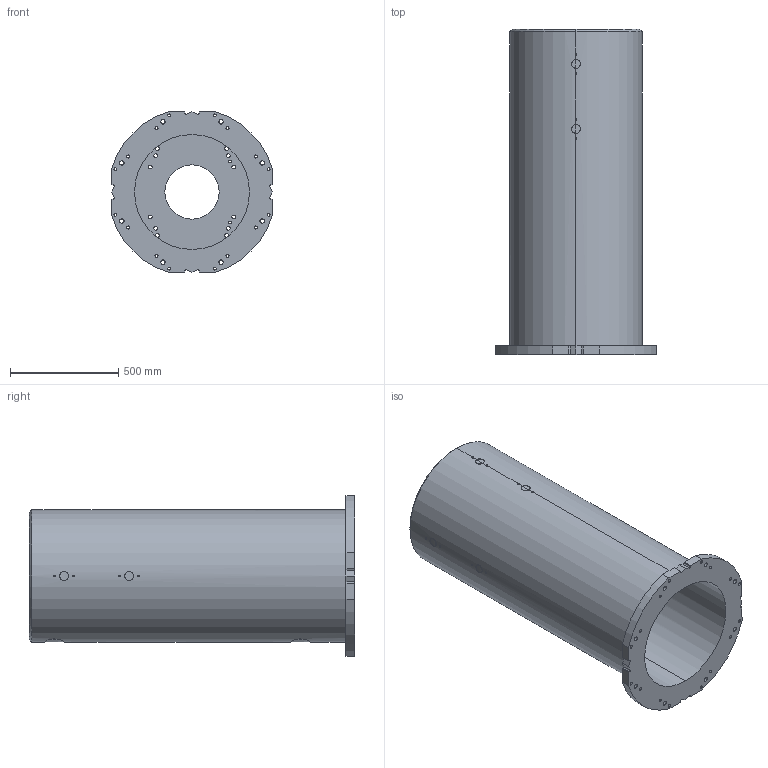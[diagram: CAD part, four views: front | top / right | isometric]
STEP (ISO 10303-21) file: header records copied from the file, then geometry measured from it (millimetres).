
FILE_DESCRIPTION (( 'STEP AP214' ), '1' );
FILE_NAME ('M-1500.STEP', '2025-12-09T14:48:49', ( '' ), ( '' ), 'SwSTEP 2.0', 'SolidWorks 2022', '' );
FILE_SCHEMA (( 'AUTOMOTIVE_DESIGN' ));
Length unit declared in the file: millimetre
Products named in the file (1): M-1500
Bounding box: 740 x 1500 x 740 mm (x, y, z)
Volume: 119858724.9 mm3; surface area: 6228824 mm2
Topology: 1 solids, 1 shells, 254 faces, 696 edges, 460 vertices
Faces by surface type: cylinder 188, bspline 32, plane 28, cone 6
Entity records: 16297 total; most frequent: CARTESIAN_POINT 9051, ORIENTED_EDGE 1384, DIRECTION 1124, EDGE_CURVE 692, VERTEX_POINT 460, AXIS2_PLACEMENT_3D 437, EDGE_LOOP 352, ADVANCED_FACE 254
